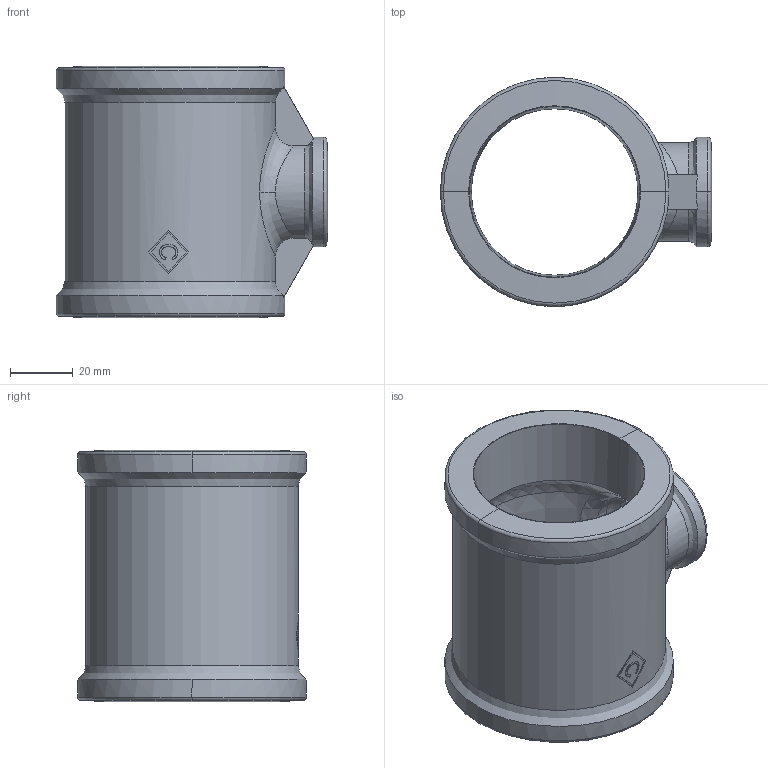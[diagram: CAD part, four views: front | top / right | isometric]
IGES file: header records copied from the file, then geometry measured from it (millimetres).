
Global section: file name: No Iges File Name specified; native system: AutoDesk Inventor R12.0; preprocessor: AutoDesk Inventor Iges Exporter R12.0; date: 20090916.161501; units: millimetre
Bounding box: 86.4 x 72.8 x 80 mm (x, y, z)
Volume: 106530.5 mm3; surface area: 38224.9 mm2
Topology: 1 solids, 1 shells, 77 faces, 207 edges, 134 vertices
Faces by surface type: bspline 25, plane 19, cylinder 12, revolution 9, torus 6, cone 6
